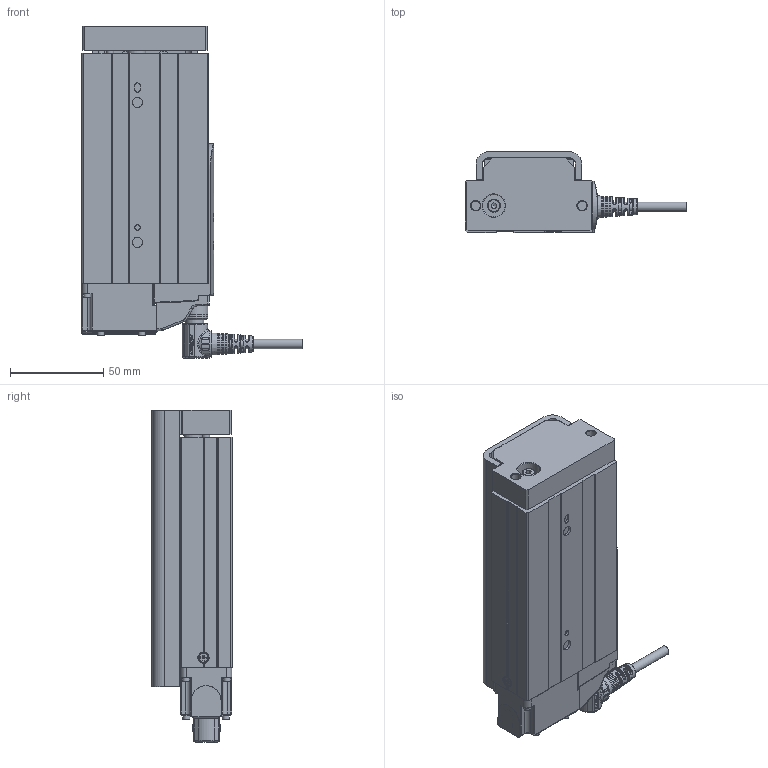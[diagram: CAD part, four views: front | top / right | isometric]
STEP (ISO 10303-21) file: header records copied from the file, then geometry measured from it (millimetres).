
FILE_DESCRIPTION(/* description */ ('STEP AP203'),/* implementation_level */ '2;1');
FILE_NAME(/* name */ 'D:\暫\2025.02.06 CSG 3D\CSG25-B\CSG25-S75-B-WL.stp',/* time_stamp */ '2025-02-08T10:38:02+08:00',/* author */ ('T10033'),/* organization */ (''),/* preprocessor_version */ 'ST-DEVELOPER v18.1',/* originating_system */ 'Autodesk Inventor 2020',/* authorisation */ '');
FILE_SCHEMA (('CONFIG_CONTROL_DESIGN'));
Products named in the file (26): CSG25-50行程-煞車; ©T©wªO-·¥­­¾×ª
O4-M2¤ú; M12 -14PIN  ªOºÝ-²Ä¤@ºØ
³W®æ; countersunk flat head cross recess screw_iso_ISO 7046-1 - M2.5 x 4 - 
Z - 4N; ¶ì½¦ºÝ»-L¼Ë¦¡(TOYO)-°
t¦XPCB(·Ù¨®¥Î)-DF3±µÀYª½
±µ©ñ¤Jª©; IS 2269 - M2 x 10; ISO 4762 - M2.5 x 6ISO; PCB; 43T34 TFSDR_Shrinkwrap_1; M12-14PIN 線端90度接頭-05中繼線; T632T6W34; 22035-000061(G4ªo¯]); countersunk flat head cross recess screw_iso_ISO 7046-1 - M2.5 x 4 - 
Z - 4N_1; ©T©wªO-·¥­­¾×ª
O4-M2¤ú_1; socket head cap screw_iso_ISO 4762 M2.5 x 6 - 6N; socket head cap screw_iso_ISO 4762 M2.5 x 8 - 8N; socket head cap screw_iso_ISO 4762 M2 x 12 - 12N; M12 -14PIN  ªOºÝ-²Ä¤@ºØ
³W®æ_1; CSG25-50¥»Åé3ª©-ªo¤Õ
½Õ¾ã¨¤«×; CSG25-Carriage-newtype; Solid1-2; 12003-000221-­×§ï; 22024-000496; CNS 3932 - M 4 x 0.7 x 12; socket head cap screw_iso_ISO 4762 M2.5 x 5 - 5N; CNS 4558 - M5 x 0.8 x 12
Assembly tree (37 placements, depth 3):
  CSG25-50行程-煞車
    ©T©wªO-·¥­­¾×ª
O4-M2¤ú
    M12 -14PIN  ªOºÝ-²Ä¤@ºØ
³W®æ
    countersunk flat head cross recess screw_iso_ISO 7046-1 - M2.5 x 4 - 
Z - 4N
    ¶ì½¦ºÝ»-L¼Ë¦¡(TOYO)-°
t¦XPCB(·Ù¨®¥Î)-DF3±µÀYª½
±µ©ñ¤Jª©
    IS 2269 - M2 x 10  x2
    ISO 4762 - M2.5 x 6ISO  x2
    PCB
    43T34 TFSDR_Shrinkwrap_1
    M12-14PIN 線端90度接頭-05中繼線
    T632T6W34
      22035-000061(G4ªo¯])
      socket head cap screw_iso_ISO 4762 M2.5 x 8 - 8N  x8
      countersunk flat head cross recess screw_iso_ISO 7046-1 - M2.5 x 4 - 
Z - 4N_1
      ©T©wªO-·¥­­¾×ª
O4-M2¤ú_1
      socket head cap screw_iso_ISO 4762 M2.5 x 6 - 6N  x2
      socket head cap screw_iso_ISO 4762 M2 x 12 - 12N  x2
      M12 -14PIN  ªOºÝ-²Ä¤@ºØ
³W®æ_1
      CSG25-50¥»Åé3ª©-ªo¤Õ
½Õ¾ã¨¤«×
      CSG25-Carriage-newtype
      Solid1-2
      12003-000221-­×§ï
      22024-000496
      CNS 3932 - M 4 x 0.7 x 12
      socket head cap screw_iso_ISO 4762 M2.5 x 5 - 5N
      CNS 4558 - M5 x 0.8 x 12  x2
Bounding box: 119 x 43.5 x 178 mm (x, y, z)
Volume: 362670.9 mm3; surface area: 99792.2 mm2
Topology: 51 solids, 60 shells, 3197 faces, 8687 edges, 5741 vertices
Faces by surface type: plane 1592, cylinder 629, bspline 482, cone 334, torus 147, sphere 13
Full cylindrical faces by diameter (mm): 0.6 x28, 0.65 x14, 1 x14, 1.567 x1, 1.6 x4, 2 x6, 2.05 x5, 2.5 x20, 2.9 x2, 3 x3, 3.8 x10, 4 x1, 4.134 x8, 4.5 x15, 4.7 x2, 4.95 x1, 5 x7, 5.2 x1, 5.3 x2, 5.4 x4, 5.5 x4, 6 x3, 7 x1, 8 x1, 8.9 x1, 9 x12, 9.5 x2, 9.6 x1, 10 x6, 10.4 x2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
Entity records: 121804 total; most frequent: CARTESIAN_POINT 44702, ORIENTED_EDGE 16105, DIRECTION 14952, EDGE_CURVE 8071, AXIS2_PLACEMENT_3D 5423, VERTEX_POINT 5362, LINE 4106, VECTOR 4106
